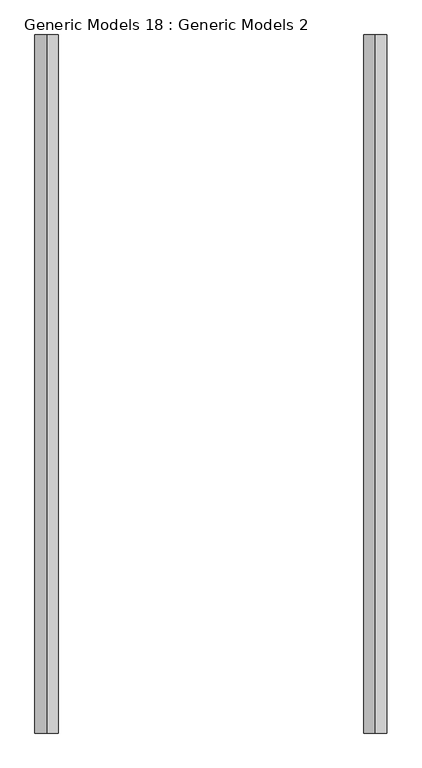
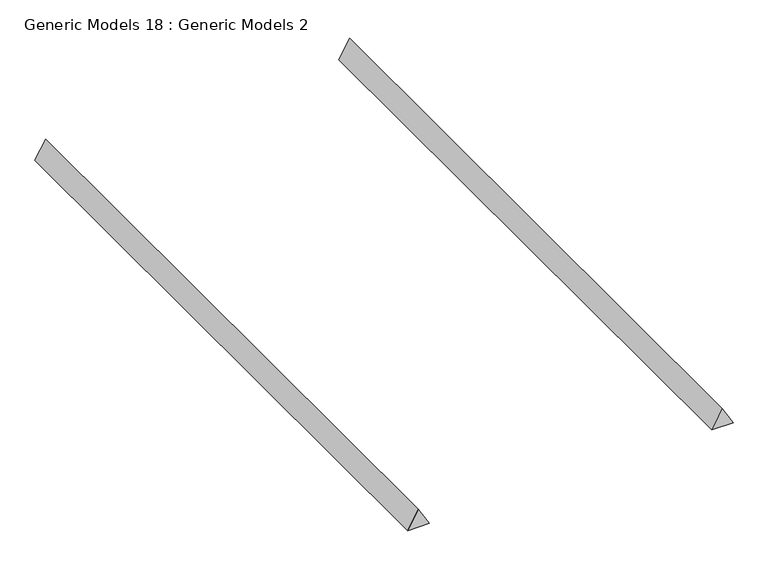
"""IFC4 building model written with IfcOpenShell, lengths in millimetres: proxy geometry, Generic Models 18 : Generic Models 2."""

import ifcopenshell
import ifcopenshell.guid

model = None  # the IFC model being written
_history = None  # IfcOwnerHistory: only IFC2X3 demands one
_inside = {}  # id of a spatial element -> (the spatial element, [elements in it])
_under = {}  # id of a project, library or spatial element -> (it, [spatial elements below it])
_declared = {}  # id of a project -> (the project, [libraries it declares])
_typed = {}  # id of a type object -> (the type object, [elements of that type])
_made_of = {}  # id of a material, layer set ... -> (it, [elements and type objects made of it])


def new_model(schema):
    """Start an empty IFC model of exactly this schema.

    Asked for "IFC4X3", IfcOpenShell would pick the latest addendum, in which some entities
    have other attributes; the version numbers below select the first issue.
    IFC2X3 requires an IfcOwnerHistory on every rooted entity: one is made here for all.
    """
    global model, _history
    if schema == "IFC4X3":
        model = ifcopenshell.file(schema_version=(4, 3, 0, 0))
    else:
        model = ifcopenshell.file(schema=schema)
    _inside.clear()
    _under.clear()
    _declared.clear()
    _typed.clear()
    _made_of.clear()
    _history = None
    if model.schema == "IFC2X3":
        org = make("IfcOrganization", Name="unknown")
        user = make(
            "IfcPersonAndOrganization",
            ThePerson=make("IfcPerson", FamilyName="unknown"),
            TheOrganization=org,
        )
        app = make(
            "IfcApplication",
            ApplicationDeveloper=org,
            Version="unknown",
            ApplicationFullName="unknown",
            ApplicationIdentifier="unknown",
        )
        _history = make(
            "IfcOwnerHistory",
            OwningUser=user,
            OwningApplication=app,
            ChangeAction="ADDED",
            CreationDate=0,
        )
    return model


def make(cls, **values):
    """One entity of the class cls with the attributes given. An attribute that is None is left unset."""
    return model.create_entity(
        cls, **{name: value for name, value in values.items() if value is not None}
    )


def rooted(cls, **values):
    """An entity with a GlobalId (a new one), such as an element, a storey or a relation."""
    return make(cls, GlobalId=ifcopenshell.guid.new(), OwnerHistory=_history, **values)


def si_unit(unit_type, name, prefix=None):
    """IfcSIUnit, for example si_unit("LENGTHUNIT", "METRE", prefix="MILLI")."""
    return make("IfcSIUnit", UnitType=unit_type, Prefix=prefix, Name=name)


def assignment(units):
    """IfcUnitAssignment: the units of a project."""
    return None if units is None else make("IfcUnitAssignment", Units=units)


def point(xyz):
    """IfcCartesianPoint."""
    return None if xyz is None else make("IfcCartesianPoint", Coordinates=xyz)


def direction(xyz):
    """IfcDirection."""
    return None if xyz is None else make("IfcDirection", DirectionRatios=xyz)


def frame(location, z_axis=None, x_axis=None):
    """IfcAxis2Placement3D, a coordinate frame: its origin and axes. An axis left out is left unset."""
    return make(
        "IfcAxis2Placement3D",
        Location=point(location),
        Axis=direction(z_axis),
        RefDirection=direction(x_axis),
    )


def origin():
    """The frame at (0, 0, 0) with its axes left unset."""
    return frame((0.0, 0.0, 0.0))


def place(relative_to, where):
    """IfcLocalPlacement: puts the frame where relative to a parent placement (None: the world)."""
    return make(
        "IfcLocalPlacement", PlacementRelTo=relative_to, RelativePlacement=where
    )


def context(
    kind, dimensions, precision=None, world=None, true_north=None, identifier=None
):
    """IfcGeometricRepresentationContext, for example the 3D "Model" context."""
    return make(
        "IfcGeometricRepresentationContext",
        ContextIdentifier=identifier,
        ContextType=kind,
        CoordinateSpaceDimension=dimensions,
        Precision=precision,
        WorldCoordinateSystem=world,
        TrueNorth=true_north,
    )


def project(units=None, contexts=None):
    """IfcProject with its units and contexts."""
    return rooted(
        "IfcProject",
        Name="project",
        RepresentationContexts=contexts,
        UnitsInContext=assignment(units),
    )


def spatial(cls, under=None, at=None, **own):
    """A site, building, storey or space (cls), placed at a placement, below another one or the project."""
    s = rooted(cls, ObjectPlacement=at, **own)
    if under is not None:
        _under.setdefault(under.id(), (under, []))[1].append(s)
    return s


def polyline(points):
    """IfcPolyline through the points."""
    return make("IfcPolyline", Points=[point(p) for p in points])


def outline(outer, holes=None, kind="AREA"):
    """IfcArbitraryClosedProfileDef: a profile drawn as a closed curve; with holes, ...WithVoids."""
    if holes is None:
        return make("IfcArbitraryClosedProfileDef", ProfileType=kind, OuterCurve=outer)
    return make(
        "IfcArbitraryProfileDefWithVoids",
        ProfileType=kind,
        OuterCurve=outer,
        InnerCurves=holes,
    )


def extrude(swept, where, along, depth):
    """IfcExtrudedAreaSolid: the profile swept, set in the frame where, extruded along a direction by depth."""
    return make(
        "IfcExtrudedAreaSolid",
        SweptArea=swept,
        Position=where,
        ExtrudedDirection=direction(along),
        Depth=depth,
    )


def shape(context_of_items, identifier, shape_type, items):
    """IfcShapeRepresentation: the items that make up one representation, for example the "Body"."""
    return make(
        "IfcShapeRepresentation",
        ContextOfItems=context_of_items,
        RepresentationIdentifier=identifier,
        RepresentationType=shape_type,
        Items=items,
    )


def source(mapping_origin, context_of_items, identifier, shape_type, items):
    """IfcRepresentationMap: a shape defined once, which mapped items show again and again."""
    return make(
        "IfcRepresentationMap",
        MappingOrigin=mapping_origin,
        MappedRepresentation=shape(context_of_items, identifier, shape_type, items),
    )


def transform(
    local_origin,
    x_axis=None,
    y_axis=None,
    z_axis=None,
    scale=None,
    scale2=None,
    scale3=None,
    uniform=True,
):
    """IfcCartesianTransformationOperator3D, or its non-uniform kind. x_axis, y_axis, z_axis: its Axis1, 2, 3."""
    if uniform:
        return make(
            "IfcCartesianTransformationOperator3D",
            Axis1=direction(x_axis),
            Axis2=direction(y_axis),
            LocalOrigin=point(local_origin),
            Scale=scale,
            Axis3=direction(z_axis),
        )
    return make(
        "IfcCartesianTransformationOperator3DnonUniform",
        Axis1=direction(x_axis),
        Axis2=direction(y_axis),
        LocalOrigin=point(local_origin),
        Scale=scale,
        Axis3=direction(z_axis),
        Scale2=scale2,
        Scale3=scale3,
    )


def mapped(mapping_source, mapping_target):
    """IfcMappedItem: shows the shape of a source again, moved by a transform."""
    return make(
        "IfcMappedItem", MappingSource=mapping_source, MappingTarget=mapping_target
    )


def made_of(thing, what):
    """Note that an element or type object is made of a material, layer set ...; save() writes the relation."""
    if what is not None:
        _made_of.setdefault(what.id(), (what, []))[1].append(thing)
    return thing


def element(
    cls,
    number,
    at=None,
    inside=None,
    cuts=None,
    type_object=None,
    material=None,
    context=None,
    identifier="Body",
    shape_type=None,
    held_by="IfcProductDefinitionShape",
    body=None,
    shapes=None,
    **own,
):
    """One element of the class cls, such as IfcWall. Its Tag is "e" and its number.

    at: its placement. inside: the storey or other place that contains it. cuts: it is an
    opening in that element (IfcRelVoidsElement). A single representation is given by context,
    identifier, shape_type and body (its items); several are given by shapes. held_by: the class
    of the entity that holds the representations. save() writes the other relations.
    """
    e = rooted(cls, Tag="e%d" % number, ObjectPlacement=at, **own)
    if body is not None:
        shapes = [shape(context, identifier, shape_type, body)]
    if shapes is not None:
        e.Representation = make(held_by, Representations=shapes)
    if inside is not None:
        _inside.setdefault(inside.id(), (inside, []))[1].append(e)
    if cuts is not None:
        rooted(
            "IfcRelVoidsElement", RelatingBuildingElement=cuts, RelatedOpeningElement=e
        )
    if type_object is not None:
        _typed.setdefault(type_object.id(), (type_object, []))[1].append(e)
    return made_of(e, material)


def aggregate(whole, parts):
    """IfcRelAggregates: a whole, such as a stair, and the parts it consists of."""
    return rooted("IfcRelAggregates", RelatingObject=whole, RelatedObjects=parts)


def save(model, path):
    """Write the relations noted so far, then the file.

    IfcRelAggregates (storeys below a building ...), IfcRelContainedInSpatialStructure (elements
    in a storey), IfcRelDefinesByType, IfcRelAssociatesMaterial and IfcRelDeclares: one each for
    every whole, place, type object, material and project.
    """
    for whole, parts in _under.values():
        aggregate(whole, parts)
    for where, things in _inside.values():
        rooted(
            "IfcRelContainedInSpatialStructure",
            RelatedElements=things,
            RelatingStructure=where,
        )
    for kind, things in _typed.values():
        rooted("IfcRelDefinesByType", RelatedObjects=things, RelatingType=kind)
    for what, things in _made_of.values():
        rooted("IfcRelAssociatesMaterial", RelatedObjects=things, RelatingMaterial=what)
    for by, libraries in _declared.values():
        rooted("IfcRelDeclares", RelatingContext=by, RelatedDefinitions=libraries)
    model.write(path)


def generic_models_18_generic_models_2_20c2d646(model_context):
    return source(origin(), model_context, "Body", "SweptSolid", [
        extrude(outline(polyline([(56437.7813052, 53683.8751623), (57912.3598008, 52832.5268709), (56437.7813052, 51981.1785795), (56437.7813052, 53683.8751623)])), frame((0.0, -38999.2354154, 0.0), z_axis=(0.0, 1.0, 0.0), x_axis=(0.0, 0.0, 1.0)), (0.0, 0.0, 1.0), 50974.6668365),
        extrude(outline(polyline([(56437.7813052, 29683.9172419), (57912.3898782, 28832.5515853), (56437.7813052, 27981.1859287), (56437.7813052, 29683.9172419)])), frame((0.0, -38999.2354154, 0.0), z_axis=(0.0, 1.0, 0.0), x_axis=(0.0, 0.0, 1.0)), (0.0, 0.0, 1.0), 50974.6668365),
    ])


if __name__ == "__main__":
    model = new_model("IFC4")
    model_context = context("Model", 3, world=origin())
    ifc_project = project(units=[si_unit("LENGTHUNIT", "METRE", prefix="MILLI")], contexts=[model_context])
    site = spatial("IfcSite", under=ifc_project)
    building = spatial("IfcBuilding", under=site)
    placement = place(None, origin())
    generic_models_18_generic_models_2_shape = generic_models_18_generic_models_2_20c2d646(model_context)
    element("IfcBuildingElementProxy", 1, Name="Generic Models 18 : Generic Models 2", ObjectType="Generic Models 18 : Generic Models 2", at=placement, inside=building, context=model_context, shape_type="MappedRepresentation", body=[
        mapped(generic_models_18_generic_models_2_shape, transform((0.0, 0.0, 0.0), x_axis=(1.0, 0.0, 0.0), y_axis=(0.0, 1.0, 0.0), z_axis=(0.0, 0.0, 1.0))),
    ])
    save(model, "model.ifc")
